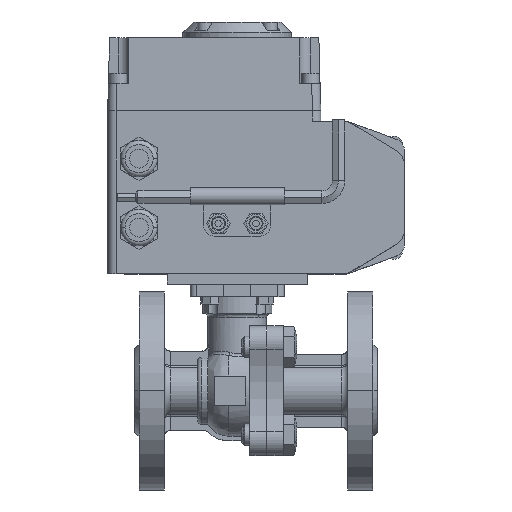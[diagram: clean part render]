
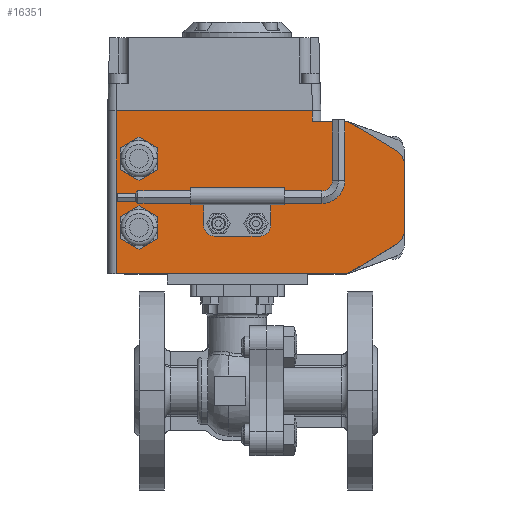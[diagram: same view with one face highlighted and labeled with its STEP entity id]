
A CAD part, top view. The second image highlights one B-rep face of the part: STEP entity #16351.
In plain terms, the highlighted planar face has unit normal (0, 0, 1).
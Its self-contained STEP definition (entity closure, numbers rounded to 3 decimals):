
#12018=CARTESIAN_POINT('',(61.749,28.5,0.));
#12019=DIRECTION('',(0.,0.,1.));
#12020=DIRECTION('',(0.521,0.853,0.));
#12021=AXIS2_PLACEMENT_3D('',#12018,#12019,#12020);
#12023=DIRECTION('',(-0.853,0.521,0.));
#12024=VECTOR('',#12023,24.905);
#12025=CARTESIAN_POINT('',(87.172,22.34,0.));
#12026=LINE('',#12025,#12024);
#12027=CARTESIAN_POINT('',(83.,15.513,0.));
#12028=DIRECTION('',(0.,0.,1.));
#12029=DIRECTION('',(1.,0.,0.));
#12030=AXIS2_PLACEMENT_3D('',#12027,#12028,#12029);
#12032=DIRECTION('',(0.,1.,0.));
#12033=VECTOR('',#12032,31.027);
#12034=CARTESIAN_POINT('',(91.,-15.513,0.));
#12035=LINE('',#12034,#12033);
#12036=CARTESIAN_POINT('',(83.,-15.513,0.));
#12037=DIRECTION('',(0.,0.,1.));
#12038=DIRECTION('',(0.521,-0.853,0.));
#12039=AXIS2_PLACEMENT_3D('',#12036,#12037,#12038);
#12041=DIRECTION('',(0.853,0.521,0.));
#12042=VECTOR('',#12041,24.905);
#12043=CARTESIAN_POINT('',(65.921,-35.326,0.));
#12044=LINE('',#12043,#12042);
#12045=CARTESIAN_POINT('',(61.749,-28.5,0.));
#12046=DIRECTION('',(0.,0.,1.));
#12047=DIRECTION('',(0.,-1.,0.));
#12048=AXIS2_PLACEMENT_3D('',#12045,#12046,#12047);
#12050=DIRECTION('',(1.,0.,0.));
#12051=VECTOR('',#12050,108.749);
#12052=CARTESIAN_POINT('',(-47.,-36.5,0.));
#12053=LINE('',#12052,#12051);
#12054=DIRECTION('',(-1.,0.,0.));
#12055=VECTOR('',#12054,94.);
#12056=CARTESIAN_POINT('',(47.,41.5,0.));
#12057=LINE('',#12056,#12055);
#12058=DIRECTION('',(0.,1.,0.));
#12059=VECTOR('',#12058,5.);
#12060=CARTESIAN_POINT('',(47.,36.5,0.));
#12061=LINE('',#12060,#12059);
#12062=DIRECTION('',(0.866,-0.5,0.));
#12063=VECTOR('',#12062,10.392);
#12064=CARTESIAN_POINT('',(-45.,-19.696,0.));
#12065=LINE('',#12064,#12063);
#12066=DIRECTION('',(0.866,0.5,0.));
#12067=VECTOR('',#12066,10.392);
#12068=CARTESIAN_POINT('',(-36.,-24.892,0.));
#12069=LINE('',#12068,#12067);
#12070=DIRECTION('',(0.,1.,0.));
#12071=VECTOR('',#12070,10.392);
#12072=CARTESIAN_POINT('',(-27.,-19.696,0.));
#12073=LINE('',#12072,#12071);
#12074=DIRECTION('',(-0.866,0.5,0.));
#12075=VECTOR('',#12074,10.392);
#12076=CARTESIAN_POINT('',(-27.,-9.304,0.));
#12077=LINE('',#12076,#12075);
#12078=DIRECTION('',(-0.866,-0.5,0.));
#12079=VECTOR('',#12078,10.392);
#12080=CARTESIAN_POINT('',(-36.,-4.108,0.));
#12081=LINE('',#12080,#12079);
#12082=DIRECTION('',(0.,-1.,0.));
#12083=VECTOR('',#12082,10.392);
#12084=CARTESIAN_POINT('',(-45.,-9.304,0.));
#12085=LINE('',#12084,#12083);
#12086=DIRECTION('',(0.866,-0.5,0.));
#12087=VECTOR('',#12086,10.392);
#12088=CARTESIAN_POINT('',(-45.,13.304,0.));
#12089=LINE('',#12088,#12087);
#12090=DIRECTION('',(0.866,0.5,0.));
#12091=VECTOR('',#12090,10.392);
#12092=CARTESIAN_POINT('',(-36.,8.108,0.));
#12093=LINE('',#12092,#12091);
#12094=DIRECTION('',(0.,1.,0.));
#12095=VECTOR('',#12094,10.392);
#12096=CARTESIAN_POINT('',(-27.,13.304,0.));
#12097=LINE('',#12096,#12095);
#12098=DIRECTION('',(-0.866,0.5,0.));
#12099=VECTOR('',#12098,10.392);
#12100=CARTESIAN_POINT('',(-27.,23.696,0.));
#12101=LINE('',#12100,#12099);
#12102=DIRECTION('',(-0.866,-0.5,0.));
#12103=VECTOR('',#12102,10.392);
#12104=CARTESIAN_POINT('',(-36.,28.892,0.));
#12105=LINE('',#12104,#12103);
#12106=DIRECTION('',(0.,-1.,0.));
#12107=VECTOR('',#12106,10.392);
#12108=CARTESIAN_POINT('',(-45.,23.696,0.));
#12109=LINE('',#12108,#12107);
#12110=CARTESIAN_POINT('',(2.,-12.5,0.));
#12111=DIRECTION('',(0.,0.,1.));
#12112=DIRECTION('',(1.,0.,0.));
#12113=AXIS2_PLACEMENT_3D('',#12110,#12111,#12112);
#12115=CARTESIAN_POINT('',(2.,-12.5,0.));
#12116=DIRECTION('',(0.,0.,1.));
#12117=DIRECTION('',(-1.,0.,0.));
#12118=AXIS2_PLACEMENT_3D('',#12115,#12116,#12117);
#12120=CARTESIAN_POINT('',(20.,-12.5,0.));
#12121=DIRECTION('',(0.,0.,1.));
#12122=DIRECTION('',(1.,0.,0.));
#12123=AXIS2_PLACEMENT_3D('',#12120,#12121,#12122);
#12125=CARTESIAN_POINT('',(20.,-12.5,0.));
#12126=DIRECTION('',(0.,0.,1.));
#12127=DIRECTION('',(-1.,0.,0.));
#12128=AXIS2_PLACEMENT_3D('',#12125,#12126,#12127);
#12604=DIRECTION('',(-1.,0.,0.));
#12605=VECTOR('',#12604,14.749);
#12606=CARTESIAN_POINT('',(61.749,36.5,0.));
#12607=LINE('',#12606,#12605);
#12685=DIRECTION('',(0.,-1.,0.));
#12686=VECTOR('',#12685,78.);
#12687=CARTESIAN_POINT('',(-47.,41.5,0.));
#12688=LINE('',#12687,#12686);
#15292=CARTESIAN_POINT('',(-47.,-36.5,0.));
#15294=VERTEX_POINT('',#15292);
#15297=CARTESIAN_POINT('',(-47.,41.5,0.));
#15299=VERTEX_POINT('',#15297);
#15308=CARTESIAN_POINT('',(47.,41.5,0.));
#15310=VERTEX_POINT('',#15308);
#15314=CARTESIAN_POINT('',(47.,36.5,0.));
#15315=VERTEX_POINT('',#15314);
#15324=CARTESIAN_POINT('',(65.921,35.326,0.));
#15325=CARTESIAN_POINT('',(61.749,36.5,0.));
#15326=VERTEX_POINT('',#15324);
#15327=VERTEX_POINT('',#15325);
#15328=CARTESIAN_POINT('',(91.,15.513,0.));
#15329=CARTESIAN_POINT('',(87.172,22.34,0.));
#15330=VERTEX_POINT('',#15328);
#15331=VERTEX_POINT('',#15329);
#15332=CARTESIAN_POINT('',(87.172,-22.34,0.));
#15333=CARTESIAN_POINT('',(91.,-15.513,0.));
#15334=VERTEX_POINT('',#15332);
#15335=VERTEX_POINT('',#15333);
#15336=CARTESIAN_POINT('',(61.749,-36.5,0.));
#15337=CARTESIAN_POINT('',(65.921,-35.326,0.));
#15338=VERTEX_POINT('',#15336);
#15339=VERTEX_POINT('',#15337);
#16028=CARTESIAN_POINT('',(-45.,-19.696,0.));
#16029=CARTESIAN_POINT('',(-36.,-24.892,0.));
#16030=VERTEX_POINT('',#16028);
#16031=VERTEX_POINT('',#16029);
#16032=CARTESIAN_POINT('',(-27.,-19.696,0.));
#16033=VERTEX_POINT('',#16032);
#16034=CARTESIAN_POINT('',(-27.,-9.304,0.));
#16035=VERTEX_POINT('',#16034);
#16036=CARTESIAN_POINT('',(-36.,-4.108,0.));
#16037=VERTEX_POINT('',#16036);
#16038=CARTESIAN_POINT('',(-45.,-9.304,0.));
#16039=VERTEX_POINT('',#16038);
#16112=CARTESIAN_POINT('',(-45.,13.304,0.));
#16113=VERTEX_POINT('',#16112);
#16114=CARTESIAN_POINT('',(-36.,8.108,0.));
#16115=VERTEX_POINT('',#16114);
#16116=CARTESIAN_POINT('',(-27.,13.304,0.));
#16117=VERTEX_POINT('',#16116);
#16118=CARTESIAN_POINT('',(-27.,23.696,0.));
#16119=VERTEX_POINT('',#16118);
#16120=CARTESIAN_POINT('',(-36.,28.892,0.));
#16121=VERTEX_POINT('',#16120);
#16122=CARTESIAN_POINT('',(-45.,23.696,0.));
#16123=VERTEX_POINT('',#16122);
#16192=CARTESIAN_POINT('',(5.,-12.5,0.));
#16193=CARTESIAN_POINT('',(-1.,-12.5,0.));
#16194=VERTEX_POINT('',#16192);
#16195=VERTEX_POINT('',#16193);
#16196=CARTESIAN_POINT('',(23.,-12.5,0.));
#16197=CARTESIAN_POINT('',(17.,-12.5,0.));
#16198=VERTEX_POINT('',#16196);
#16199=VERTEX_POINT('',#16197);
#16280=CARTESIAN_POINT('',(0.,0.,0.));
#16281=DIRECTION('',(0.,0.,1.));
#16282=DIRECTION('',(1.,0.,0.));
#16283=AXIS2_PLACEMENT_3D('',#16280,#16281,#16282);
#16284=PLANE('',#16283);
#16286=ORIENTED_EDGE('',*,*,#16285,.F.);
#16288=ORIENTED_EDGE('',*,*,#16287,.F.);
#16290=ORIENTED_EDGE('',*,*,#16289,.F.);
#16292=ORIENTED_EDGE('',*,*,#16291,.F.);
#16294=ORIENTED_EDGE('',*,*,#16293,.F.);
#16296=ORIENTED_EDGE('',*,*,#16295,.F.);
#16298=ORIENTED_EDGE('',*,*,#16297,.F.);
#16300=ORIENTED_EDGE('',*,*,#16299,.F.);
#16302=ORIENTED_EDGE('',*,*,#16301,.F.);
#16304=ORIENTED_EDGE('',*,*,#16303,.F.);
#16306=ORIENTED_EDGE('',*,*,#16305,.F.);
#16308=ORIENTED_EDGE('',*,*,#16307,.F.);
#16309=EDGE_LOOP('',(#16286,#16288,#16290,#16292,#16294,#16296,#16298,#16300,
#16302,#16304,#16306,#16308));
#16310=FACE_OUTER_BOUND('',#16309,.F.);
#16312=ORIENTED_EDGE('',*,*,#16311,.T.);
#16314=ORIENTED_EDGE('',*,*,#16313,.T.);
#16316=ORIENTED_EDGE('',*,*,#16315,.T.);
#16318=ORIENTED_EDGE('',*,*,#16317,.T.);
#16320=ORIENTED_EDGE('',*,*,#16319,.T.);
#16322=ORIENTED_EDGE('',*,*,#16321,.T.);
#16323=EDGE_LOOP('',(#16312,#16314,#16316,#16318,#16320,#16322));
#16324=FACE_BOUND('',#16323,.F.);
#16326=ORIENTED_EDGE('',*,*,#16325,.T.);
#16328=ORIENTED_EDGE('',*,*,#16327,.T.);
#16330=ORIENTED_EDGE('',*,*,#16329,.T.);
#16332=ORIENTED_EDGE('',*,*,#16331,.T.);
#16334=ORIENTED_EDGE('',*,*,#16333,.T.);
#16336=ORIENTED_EDGE('',*,*,#16335,.T.);
#16337=EDGE_LOOP('',(#16326,#16328,#16330,#16332,#16334,#16336));
#16338=FACE_BOUND('',#16337,.F.);
#16340=ORIENTED_EDGE('',*,*,#16339,.T.);
#16342=ORIENTED_EDGE('',*,*,#16341,.T.);
#16343=EDGE_LOOP('',(#16340,#16342));
#16344=FACE_BOUND('',#16343,.F.);
#16346=ORIENTED_EDGE('',*,*,#16345,.T.);
#16348=ORIENTED_EDGE('',*,*,#16347,.T.);
#16349=EDGE_LOOP('',(#16346,#16348));
#16350=FACE_BOUND('',#16349,.F.);
#16351=ADVANCED_FACE('',(#16310,#16324,#16338,#16344,#16350),#16284,.T.);
#12022=CIRCLE('',#12021,8.);
#12031=CIRCLE('',#12030,8.);
#12040=CIRCLE('',#12039,8.);
#12049=CIRCLE('',#12048,8.);
#12114=CIRCLE('',#12113,3.);
#12119=CIRCLE('',#12118,3.);
#12124=CIRCLE('',#12123,3.);
#12129=CIRCLE('',#12128,3.);
#16285=EDGE_CURVE('',#15326,#15327,#12022,.T.);
#16287=EDGE_CURVE('',#15331,#15326,#12026,.T.);
#16289=EDGE_CURVE('',#15330,#15331,#12031,.T.);
#16291=EDGE_CURVE('',#15335,#15330,#12035,.T.);
#16293=EDGE_CURVE('',#15334,#15335,#12040,.T.);
#16295=EDGE_CURVE('',#15339,#15334,#12044,.T.);
#16297=EDGE_CURVE('',#15338,#15339,#12049,.T.);
#16299=EDGE_CURVE('',#15294,#15338,#12053,.T.);
#16301=EDGE_CURVE('',#15299,#15294,#12688,.T.);
#16303=EDGE_CURVE('',#15310,#15299,#12057,.T.);
#16305=EDGE_CURVE('',#15315,#15310,#12061,.T.);
#16307=EDGE_CURVE('',#15327,#15315,#12607,.T.);
#16311=EDGE_CURVE('',#16030,#16031,#12065,.T.);
#16313=EDGE_CURVE('',#16031,#16033,#12069,.T.);
#16315=EDGE_CURVE('',#16033,#16035,#12073,.T.);
#16317=EDGE_CURVE('',#16035,#16037,#12077,.T.);
#16319=EDGE_CURVE('',#16037,#16039,#12081,.T.);
#16321=EDGE_CURVE('',#16039,#16030,#12085,.T.);
#16325=EDGE_CURVE('',#16113,#16115,#12089,.T.);
#16327=EDGE_CURVE('',#16115,#16117,#12093,.T.);
#16329=EDGE_CURVE('',#16117,#16119,#12097,.T.);
#16331=EDGE_CURVE('',#16119,#16121,#12101,.T.);
#16333=EDGE_CURVE('',#16121,#16123,#12105,.T.);
#16335=EDGE_CURVE('',#16123,#16113,#12109,.T.);
#16339=EDGE_CURVE('',#16194,#16195,#12114,.T.);
#16341=EDGE_CURVE('',#16195,#16194,#12119,.T.);
#16345=EDGE_CURVE('',#16198,#16199,#12124,.T.);
#16347=EDGE_CURVE('',#16199,#16198,#12129,.T.);
